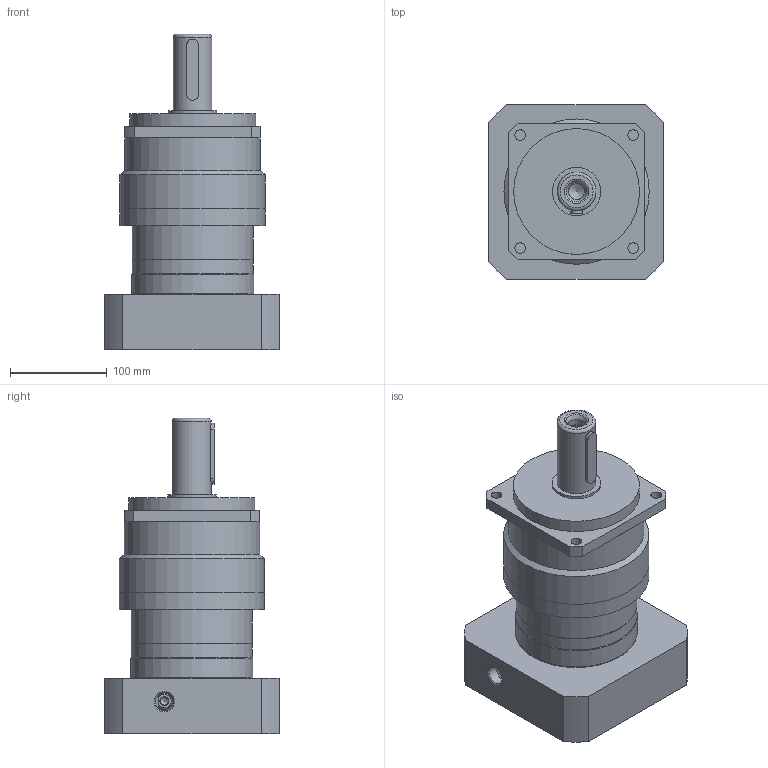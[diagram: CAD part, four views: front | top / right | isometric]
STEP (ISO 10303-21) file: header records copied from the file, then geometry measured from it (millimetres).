
FILE_DESCRIPTION(/* description */ (''),/* implementation_level */ '2;1');
FILE_NAME(/* name */ 'WEB140-L2-标准30C.stp',/* time_stamp */ '2025-08-13T14:05:18+08:00',/* author */ (''),/* organization */ (''),/* preprocessor_version */ 'ST-DEVELOPER v16.7',/* originating_system */ 'SIEMENS PLM Software NX 12.0',/* authorisation */ '');
FILE_SCHEMA (('AUTOMOTIVE_DESIGN { 1 0 10303 214 3 1 1 1 }'));
Length unit declared in the file: millimetre
Products named in the file (10): GB-T70.1-2000,M10x30307; GB93-87,10308; WSH100-L1-3-P2-114.3-200-M12-35-81-180_M_Dummy108; S100-3KW_rear109; DZ142-114.3-200-M12x30-19-180-57.5110; WSH100-RLZ-35; WVRB140-L2-B-小-80-100-M6-19-50_stp_SOLIDS_id3
1_stp; WVRB140-RING-2-大接小_id75_stp; WAB142-SJT_M10_-43_stp317; WEB140-L2-114.3-200-M12-35K10-81_stp
Assembly tree (9 placements, depth 3):
  WEB140-L2-114.3-200-M12-35K10-81_stp
    WVRB140-RING-2-大接小_id75_stp
    WVRB140-L2-B-小-80-100-M6-19-50_stp_SOLIDS_id3
1_stp
    WAB142-SJT_M10_-43_stp317
      GB93-87,10308
      GB-T70.1-2000,M10x30307
    WSH100-RLZ-35
    DZ142-114.3-200-M12x30-19-180-57.5110
    S100-3KW_rear109
    WSH100-L1-3-P2-114.3-200-M12-35-81-180_M_Dummy108
Bounding box: 180 x 180 x 325.5 mm (x, y, z)
Volume: 3901004.2 mm3; surface area: 390729.1 mm2
Topology: 8 solids, 8 shells, 452 faces, 1033 edges, 668 vertices
Faces by surface type: plane 267, cylinder 127, cone 41, torus 17
Full cylindrical faces by diameter (mm): 5.5 x12, 8.5 x13, 9 x12, 9.732 x1, 10.106 x4, 10.5 x1, 11 x4, 13 x6, 16 x2, 17 x1, 19 x2, 35 x1, 40 x1, 43 x1, 43.5 x1, 45 x2, 50 x1, 88 x1, 125 x3, 126 x1, 130 x1, 140 x1, 150 x2
Entity records: 14726 total; most frequent: CARTESIAN_POINT 2149, DIRECTION 2115, ORIENTED_EDGE 1798, EDGE_CURVE 899, AXIS2_PLACEMENT_3D 776, EDGE_LOOP 661, VERTEX_POINT 658, LINE 563
